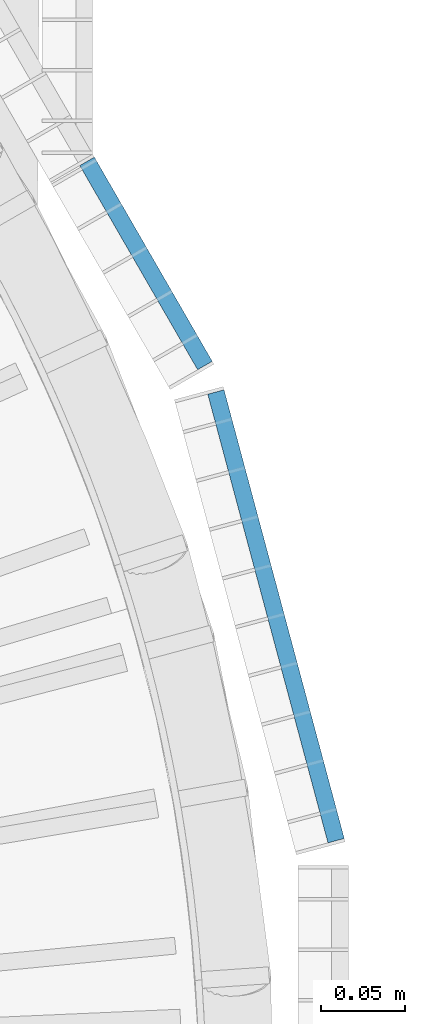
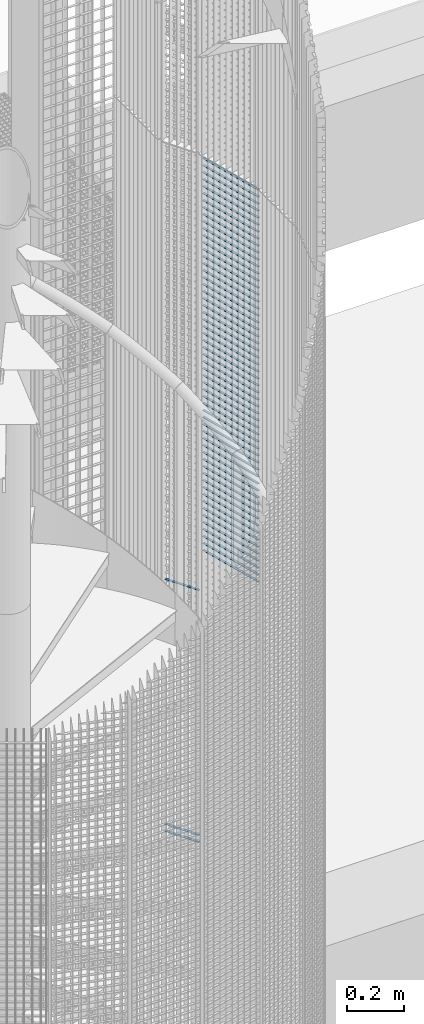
# One storey, part 270 of 1148: 60 beams, 2 elements without a shape of their own.
"""IFC2X3 building model written with IfcOpenShell, lengths in millimetres."""

from ifc_helpers import new_model, si_unit, frame, origin_with_axes, origin_2d_with_axis, place, context, subcontext, project, spatial, rectangle, extrude, material, type_object, element, aggregate, save


model = new_model("IFC2X3")

# Units and contexts
model_context = context("Model", 3, precision=1e-05, world=origin_with_axes())
body_context = subcontext(model_context, "Body", "Model", "MODEL_VIEW")
ifc_project = project(units=[si_unit("LENGTHUNIT", "METRE", prefix="MILLI"), si_unit("AREAUNIT", "SQUARE_METRE"), si_unit("VOLUMEUNIT", "CUBIC_METRE"), si_unit("MASSUNIT", "GRAM", prefix="KILO"), si_unit("TIMEUNIT", "SECOND"), si_unit("PLANEANGLEUNIT", "RADIAN"), si_unit("SOLIDANGLEUNIT", "STERADIAN"), si_unit("THERMODYNAMICTEMPERATUREUNIT", "DEGREE_CELSIUS"), si_unit("LUMINOUSINTENSITYUNIT", "LUMEN")], contexts=[model_context])

# Site, building, storey
site_placement = place(None, origin_with_axes())
site = spatial("IfcSite", under=ifc_project, at=site_placement, Name="Undefined", CompositionType="ELEMENT")
building_placement = place(site_placement, origin_with_axes())
building = spatial("IfcBuilding", under=site, at=building_placement, Name="Undefined", CompositionType="ELEMENT")
storey_placement = place(building_placement, origin_with_axes())
storey = spatial("IfcBuildingStorey", under=building, at=storey_placement, Name="Undefined", CompositionType="ELEMENT", Elevation=0.0)

# Assembly, beams
assembly_1_placement = place(storey_placement, origin_with_axes())
assembly_1 = element("IfcElementAssembly", 1, at=assembly_1_placement, inside=storey, Name="BORDURE", AssemblyPlace="NOTDEFINED", PredefinedType="NOTDEFINED")
ifc_material = material(Name="STEEL/S235JR")
beam_type = type_object("IfcBeamType", Name="PL2*10", PredefinedType="NOTDEFINED")
beam_1_placement = place(assembly_1_placement, frame((1033.2999428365, 437.231999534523, 12060.0), z_axis=(0.866030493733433, 0.499991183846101, 0.0), x_axis=(-0.499991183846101, 0.866030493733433, 0.0)))
beam_1 = element("IfcBeam", 2, at=beam_1_placement, type_object=beam_type, material=ifc_material, Name="ENTRETOISE", context=body_context, shape_type="SweptSolid", body=[
    extrude(rectangle(XDim=2.0, YDim=10.0, at=origin_2d_with_axis()), frame((140.102470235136, 0.0, 0.0), z_axis=(-1.0, 0.0, 0.0), x_axis=(0.0, -1.0, 0.0)), (0.0, 0.0, 1.0), 140.1),
])
beam_2_placement = place(assembly_1_placement, frame((1033.29994283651, 437.23199953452, 13110.0), z_axis=(0.866030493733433, 0.499991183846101, 0.0), x_axis=(-0.499991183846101, 0.866030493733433, 0.0)))
beam_2 = element("IfcBeam", 3, at=beam_2_placement, type_object=beam_type, material=ifc_material, Name="ENTRETOISE", context=body_context, shape_type="SweptSolid", body=[
    extrude(rectangle(XDim=2.0, YDim=10.0, at=origin_2d_with_axis()), frame((140.102470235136, 0.0, 0.0), z_axis=(-1.0, 0.0, 0.0), x_axis=(0.0, -1.0, 0.0)), (0.0, 0.0, 1.0), 140.1),
])
beam_3_placement = place(assembly_1_placement, frame((1033.2999428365, 437.231999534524, 12030.0), z_axis=(0.866030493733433, 0.499991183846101, 0.0), x_axis=(-0.499991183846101, 0.866030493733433, 0.0)))
beam_3 = element("IfcBeam", 4, at=beam_3_placement, type_object=beam_type, material=ifc_material, Name="ENTRETOISE", context=body_context, shape_type="SweptSolid", body=[
    extrude(rectangle(XDim=2.0, YDim=10.0, at=origin_2d_with_axis()), frame((140.102470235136, 0.0, 0.0), z_axis=(-1.0, 0.0, 0.0), x_axis=(0.0, -1.0, 0.0)), (0.0, 0.0, 1.0), 140.1),
])
aggregate(assembly_1, [beam_1, beam_2, beam_3])

assembly_2_placement = place(storey_placement, origin_with_axes())
assembly_2 = element("IfcElementAssembly", 5, at=assembly_2_placement, inside=storey, Name="BORDURE", AssemblyPlace="NOTDEFINED", PredefinedType="NOTDEFINED")
beam_4_placement = place(assembly_2_placement, frame((1111.25508286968, 154.895926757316, 14970.0), z_axis=(0.965925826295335, 0.258819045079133, 0.0), x_axis=(-0.258819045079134, 0.965925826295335, 0.0)))
beam_4 = element("IfcBeam", 6, at=beam_4_placement, type_object=beam_type, material=ifc_material, Name="ENTRETOISE", context=body_context, shape_type="SweptSolid", body=[
    extrude(rectangle(XDim=2.0, YDim=10.0, at=origin_2d_with_axis()), frame((275.999999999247, 9.09494701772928e-13, 1.53210777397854e-14), z_axis=(-1.0, 0.0, 0.0), x_axis=(0.0, -1.0, 0.0)), (0.0, 0.0, 1.0), 276.0),
])
beam_5_placement = place(assembly_2_placement, frame((1111.25508286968, 154.895926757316, 14940.0), z_axis=(0.965925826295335, 0.258819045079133, 0.0), x_axis=(-0.258819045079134, 0.965925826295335, 0.0)))
beam_5 = element("IfcBeam", 7, at=beam_5_placement, type_object=beam_type, material=ifc_material, Name="ENTRETOISE", context=body_context, shape_type="SweptSolid", body=[
    extrude(rectangle(XDim=2.0, YDim=10.0, at=origin_2d_with_axis()), frame((275.999999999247, 9.09494701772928e-13, 1.53210777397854e-14), z_axis=(-1.0, 0.0, 0.0), x_axis=(0.0, -1.0, 0.0)), (0.0, 0.0, 1.0), 276.0),
])
beam_6_placement = place(assembly_2_placement, frame((1111.25508286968, 154.895926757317, 14910.0), z_axis=(0.965925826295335, 0.258819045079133, 0.0), x_axis=(-0.258819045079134, 0.965925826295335, 0.0)))
beam_6 = element("IfcBeam", 8, at=beam_6_placement, type_object=beam_type, material=ifc_material, Name="ENTRETOISE", context=body_context, shape_type="SweptSolid", body=[
    extrude(rectangle(XDim=2.0, YDim=10.0, at=origin_2d_with_axis()), frame((275.999999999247, 9.09494701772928e-13, 1.53210777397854e-14), z_axis=(-1.0, 0.0, 0.0), x_axis=(0.0, -1.0, 0.0)), (0.0, 0.0, 1.0), 276.0),
])
beam_7_placement = place(assembly_2_placement, frame((1111.25508286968, 154.895926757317, 14880.0), z_axis=(0.965925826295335, 0.258819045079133, 0.0), x_axis=(-0.258819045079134, 0.965925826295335, 0.0)))
beam_7 = element("IfcBeam", 9, at=beam_7_placement, type_object=beam_type, material=ifc_material, Name="ENTRETOISE", context=body_context, shape_type="SweptSolid", body=[
    extrude(rectangle(XDim=2.0, YDim=10.0, at=origin_2d_with_axis()), frame((275.999999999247, 9.09494701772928e-13, 1.53210777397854e-14), z_axis=(-1.0, 0.0, 0.0), x_axis=(0.0, -1.0, 0.0)), (0.0, 0.0, 1.0), 276.0),
])
beam_8_placement = place(assembly_2_placement, frame((1111.25508286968, 154.895926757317, 14850.0), z_axis=(0.965925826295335, 0.258819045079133, 0.0), x_axis=(-0.258819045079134, 0.965925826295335, 0.0)))
beam_8 = element("IfcBeam", 10, at=beam_8_placement, type_object=beam_type, material=ifc_material, Name="ENTRETOISE", context=body_context, shape_type="SweptSolid", body=[
    extrude(rectangle(XDim=2.0, YDim=10.0, at=origin_2d_with_axis()), frame((275.999999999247, 9.09494701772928e-13, 1.53210777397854e-14), z_axis=(-1.0, 0.0, 0.0), x_axis=(0.0, -1.0, 0.0)), (0.0, 0.0, 1.0), 276.0),
])
beam_9_placement = place(assembly_2_placement, frame((1111.25508286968, 154.895926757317, 14820.0), z_axis=(0.965925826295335, 0.258819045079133, 0.0), x_axis=(-0.258819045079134, 0.965925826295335, 0.0)))
beam_9 = element("IfcBeam", 11, at=beam_9_placement, type_object=beam_type, material=ifc_material, Name="ENTRETOISE", context=body_context, shape_type="SweptSolid", body=[
    extrude(rectangle(XDim=2.0, YDim=10.0, at=origin_2d_with_axis()), frame((275.999999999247, 9.09494701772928e-13, 1.53210777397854e-14), z_axis=(-1.0, 0.0, 0.0), x_axis=(0.0, -1.0, 0.0)), (0.0, 0.0, 1.0), 276.0),
])
beam_10_placement = place(assembly_2_placement, frame((1111.25508286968, 154.895926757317, 14790.0), z_axis=(0.965925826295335, 0.258819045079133, 0.0), x_axis=(-0.258819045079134, 0.965925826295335, 0.0)))
beam_10 = element("IfcBeam", 12, at=beam_10_placement, type_object=beam_type, material=ifc_material, Name="ENTRETOISE", context=body_context, shape_type="SweptSolid", body=[
    extrude(rectangle(XDim=2.0, YDim=10.0, at=origin_2d_with_axis()), frame((275.999999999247, 9.09494701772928e-13, 1.53210777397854e-14), z_axis=(-1.0, 0.0, 0.0), x_axis=(0.0, -1.0, 0.0)), (0.0, 0.0, 1.0), 276.0),
])
beam_11_placement = place(assembly_2_placement, frame((1111.25508286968, 154.895926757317, 14760.0), z_axis=(0.965925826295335, 0.258819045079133, 0.0), x_axis=(-0.258819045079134, 0.965925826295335, 0.0)))
beam_11 = element("IfcBeam", 13, at=beam_11_placement, type_object=beam_type, material=ifc_material, Name="ENTRETOISE", context=body_context, shape_type="SweptSolid", body=[
    extrude(rectangle(XDim=2.0, YDim=10.0, at=origin_2d_with_axis()), frame((275.999999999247, 9.09494701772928e-13, 1.53210777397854e-14), z_axis=(-1.0, 0.0, 0.0), x_axis=(0.0, -1.0, 0.0)), (0.0, 0.0, 1.0), 276.0),
])
beam_12_placement = place(assembly_2_placement, frame((1111.25508286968, 154.895926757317, 14730.0), z_axis=(0.965925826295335, 0.258819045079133, 0.0), x_axis=(-0.258819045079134, 0.965925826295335, 0.0)))
beam_12 = element("IfcBeam", 14, at=beam_12_placement, type_object=beam_type, material=ifc_material, Name="ENTRETOISE", context=body_context, shape_type="SweptSolid", body=[
    extrude(rectangle(XDim=2.0, YDim=10.0, at=origin_2d_with_axis()), frame((275.999999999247, 9.09494701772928e-13, 1.53210777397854e-14), z_axis=(-1.0, 0.0, 0.0), x_axis=(0.0, -1.0, 0.0)), (0.0, 0.0, 1.0), 276.0),
])
beam_13_placement = place(assembly_2_placement, frame((1111.25508286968, 154.895926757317, 14700.0), z_axis=(0.965925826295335, 0.258819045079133, 0.0), x_axis=(-0.258819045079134, 0.965925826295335, 0.0)))
beam_13 = element("IfcBeam", 15, at=beam_13_placement, type_object=beam_type, material=ifc_material, Name="ENTRETOISE", context=body_context, shape_type="SweptSolid", body=[
    extrude(rectangle(XDim=2.0, YDim=10.0, at=origin_2d_with_axis()), frame((275.999999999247, 9.09494701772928e-13, 1.53210777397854e-14), z_axis=(-1.0, 0.0, 0.0), x_axis=(0.0, -1.0, 0.0)), (0.0, 0.0, 1.0), 276.0),
])
beam_14_placement = place(assembly_2_placement, frame((1111.25508286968, 154.895926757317, 14670.0), z_axis=(0.965925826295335, 0.258819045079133, 0.0), x_axis=(-0.258819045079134, 0.965925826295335, 0.0)))
beam_14 = element("IfcBeam", 16, at=beam_14_placement, type_object=beam_type, material=ifc_material, Name="ENTRETOISE", context=body_context, shape_type="SweptSolid", body=[
    extrude(rectangle(XDim=2.0, YDim=10.0, at=origin_2d_with_axis()), frame((275.999999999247, 9.09494701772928e-13, 1.53210777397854e-14), z_axis=(-1.0, 0.0, 0.0), x_axis=(0.0, -1.0, 0.0)), (0.0, 0.0, 1.0), 276.0),
])
beam_15_placement = place(assembly_2_placement, frame((1111.25508286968, 154.895926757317, 14640.0), z_axis=(0.965925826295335, 0.258819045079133, 0.0), x_axis=(-0.258819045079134, 0.965925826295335, 0.0)))
beam_15 = element("IfcBeam", 17, at=beam_15_placement, type_object=beam_type, material=ifc_material, Name="ENTRETOISE", context=body_context, shape_type="SweptSolid", body=[
    extrude(rectangle(XDim=2.0, YDim=10.0, at=origin_2d_with_axis()), frame((275.999999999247, 9.09494701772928e-13, 1.53210777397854e-14), z_axis=(-1.0, 0.0, 0.0), x_axis=(0.0, -1.0, 0.0)), (0.0, 0.0, 1.0), 276.0),
])
beam_16_placement = place(assembly_2_placement, frame((1111.25508286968, 154.895926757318, 14610.0), z_axis=(0.965925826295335, 0.258819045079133, 0.0), x_axis=(-0.258819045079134, 0.965925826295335, 0.0)))
beam_16 = element("IfcBeam", 18, at=beam_16_placement, type_object=beam_type, material=ifc_material, Name="ENTRETOISE", context=body_context, shape_type="SweptSolid", body=[
    extrude(rectangle(XDim=2.0, YDim=10.0, at=origin_2d_with_axis()), frame((275.999999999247, 9.09494701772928e-13, 1.53210777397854e-14), z_axis=(-1.0, 0.0, 0.0), x_axis=(0.0, -1.0, 0.0)), (0.0, 0.0, 1.0), 276.0),
])
beam_17_placement = place(assembly_2_placement, frame((1111.25508286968, 154.895926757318, 14580.0), z_axis=(0.965925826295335, 0.258819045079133, 0.0), x_axis=(-0.258819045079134, 0.965925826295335, 0.0)))
beam_17 = element("IfcBeam", 19, at=beam_17_placement, type_object=beam_type, material=ifc_material, Name="ENTRETOISE", context=body_context, shape_type="SweptSolid", body=[
    extrude(rectangle(XDim=2.0, YDim=10.0, at=origin_2d_with_axis()), frame((275.999999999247, 9.09494701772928e-13, 1.53210777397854e-14), z_axis=(-1.0, 0.0, 0.0), x_axis=(0.0, -1.0, 0.0)), (0.0, 0.0, 1.0), 276.0),
])
beam_18_placement = place(assembly_2_placement, frame((1111.25508286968, 154.895926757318, 14550.0), z_axis=(0.965925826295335, 0.258819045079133, 0.0), x_axis=(-0.258819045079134, 0.965925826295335, 0.0)))
beam_18 = element("IfcBeam", 20, at=beam_18_placement, type_object=beam_type, material=ifc_material, Name="ENTRETOISE", context=body_context, shape_type="SweptSolid", body=[
    extrude(rectangle(XDim=2.0, YDim=10.0, at=origin_2d_with_axis()), frame((275.999999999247, 9.09494701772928e-13, 1.53210777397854e-14), z_axis=(-1.0, 0.0, 0.0), x_axis=(0.0, -1.0, 0.0)), (0.0, 0.0, 1.0), 276.0),
])
beam_19_placement = place(assembly_2_placement, frame((1111.25508286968, 154.895926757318, 14520.0), z_axis=(0.965925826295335, 0.258819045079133, 0.0), x_axis=(-0.258819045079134, 0.965925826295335, 0.0)))
beam_19 = element("IfcBeam", 21, at=beam_19_placement, type_object=beam_type, material=ifc_material, Name="ENTRETOISE", context=body_context, shape_type="SweptSolid", body=[
    extrude(rectangle(XDim=2.0, YDim=10.0, at=origin_2d_with_axis()), frame((275.999999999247, 9.09494701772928e-13, 1.53210777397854e-14), z_axis=(-1.0, 0.0, 0.0), x_axis=(0.0, -1.0, 0.0)), (0.0, 0.0, 1.0), 276.0),
])
beam_20_placement = place(assembly_2_placement, frame((1111.25508286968, 154.895926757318, 14490.0), z_axis=(0.965925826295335, 0.258819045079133, 0.0), x_axis=(-0.258819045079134, 0.965925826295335, 0.0)))
beam_20 = element("IfcBeam", 22, at=beam_20_placement, type_object=beam_type, material=ifc_material, Name="ENTRETOISE", context=body_context, shape_type="SweptSolid", body=[
    extrude(rectangle(XDim=2.0, YDim=10.0, at=origin_2d_with_axis()), frame((275.999999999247, 9.09494701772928e-13, 1.53210777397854e-14), z_axis=(-1.0, 0.0, 0.0), x_axis=(0.0, -1.0, 0.0)), (0.0, 0.0, 1.0), 276.0),
])
beam_21_placement = place(assembly_2_placement, frame((1111.25508286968, 154.895926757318, 14460.0), z_axis=(0.965925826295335, 0.258819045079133, 0.0), x_axis=(-0.258819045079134, 0.965925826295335, 0.0)))
beam_21 = element("IfcBeam", 23, at=beam_21_placement, type_object=beam_type, material=ifc_material, Name="ENTRETOISE", context=body_context, shape_type="SweptSolid", body=[
    extrude(rectangle(XDim=2.0, YDim=10.0, at=origin_2d_with_axis()), frame((275.999999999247, 9.09494701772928e-13, 1.53210777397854e-14), z_axis=(-1.0, 0.0, 0.0), x_axis=(0.0, -1.0, 0.0)), (0.0, 0.0, 1.0), 276.0),
])
beam_22_placement = place(assembly_2_placement, frame((1111.25508286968, 154.895926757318, 14430.0), z_axis=(0.965925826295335, 0.258819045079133, 0.0), x_axis=(-0.258819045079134, 0.965925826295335, 0.0)))
beam_22 = element("IfcBeam", 24, at=beam_22_placement, type_object=beam_type, material=ifc_material, Name="ENTRETOISE", context=body_context, shape_type="SweptSolid", body=[
    extrude(rectangle(XDim=2.0, YDim=10.0, at=origin_2d_with_axis()), frame((275.999999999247, 9.09494701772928e-13, 1.53210777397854e-14), z_axis=(-1.0, 0.0, 0.0), x_axis=(0.0, -1.0, 0.0)), (0.0, 0.0, 1.0), 276.0),
])
beam_23_placement = place(assembly_2_placement, frame((1111.25508286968, 154.895926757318, 14400.0), z_axis=(0.965925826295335, 0.258819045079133, 0.0), x_axis=(-0.258819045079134, 0.965925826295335, 0.0)))
beam_23 = element("IfcBeam", 25, at=beam_23_placement, type_object=beam_type, material=ifc_material, Name="ENTRETOISE", context=body_context, shape_type="SweptSolid", body=[
    extrude(rectangle(XDim=2.0, YDim=10.0, at=origin_2d_with_axis()), frame((275.999999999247, 9.09494701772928e-13, 1.53210777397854e-14), z_axis=(-1.0, 0.0, 0.0), x_axis=(0.0, -1.0, 0.0)), (0.0, 0.0, 1.0), 276.0),
])
beam_24_placement = place(assembly_2_placement, frame((1111.25508286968, 154.895926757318, 14370.0), z_axis=(0.965925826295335, 0.258819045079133, 0.0), x_axis=(-0.258819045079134, 0.965925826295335, 0.0)))
beam_24 = element("IfcBeam", 26, at=beam_24_placement, type_object=beam_type, material=ifc_material, Name="ENTRETOISE", context=body_context, shape_type="SweptSolid", body=[
    extrude(rectangle(XDim=2.0, YDim=10.0, at=origin_2d_with_axis()), frame((275.999999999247, 9.09494701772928e-13, 1.53210777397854e-14), z_axis=(-1.0, 0.0, 0.0), x_axis=(0.0, -1.0, 0.0)), (0.0, 0.0, 1.0), 276.0),
])
beam_25_placement = place(assembly_2_placement, frame((1111.25508286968, 154.895926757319, 14340.0), z_axis=(0.965925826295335, 0.258819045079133, 0.0), x_axis=(-0.258819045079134, 0.965925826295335, 0.0)))
beam_25 = element("IfcBeam", 27, at=beam_25_placement, type_object=beam_type, material=ifc_material, Name="ENTRETOISE", context=body_context, shape_type="SweptSolid", body=[
    extrude(rectangle(XDim=2.0, YDim=10.0, at=origin_2d_with_axis()), frame((275.999999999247, 9.09494701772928e-13, 1.53210777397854e-14), z_axis=(-1.0, 0.0, 0.0), x_axis=(0.0, -1.0, 0.0)), (0.0, 0.0, 1.0), 276.0),
])
beam_26_placement = place(assembly_2_placement, frame((1111.25508286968, 154.895926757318, 14310.0), z_axis=(0.965925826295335, 0.258819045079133, 0.0), x_axis=(-0.258819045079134, 0.965925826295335, 0.0)))
beam_26 = element("IfcBeam", 28, at=beam_26_placement, type_object=beam_type, material=ifc_material, Name="ENTRETOISE", context=body_context, shape_type="SweptSolid", body=[
    extrude(rectangle(XDim=2.0, YDim=10.0, at=origin_2d_with_axis()), frame((275.999999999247, 9.09494701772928e-13, 1.53210777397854e-14), z_axis=(-1.0, 0.0, 0.0), x_axis=(0.0, -1.0, 0.0)), (0.0, 0.0, 1.0), 276.0),
])
beam_27_placement = place(assembly_2_placement, frame((1111.25508286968, 154.895926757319, 14280.0), z_axis=(0.965925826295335, 0.258819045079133, 0.0), x_axis=(-0.258819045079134, 0.965925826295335, 0.0)))
beam_27 = element("IfcBeam", 29, at=beam_27_placement, type_object=beam_type, material=ifc_material, Name="ENTRETOISE", context=body_context, shape_type="SweptSolid", body=[
    extrude(rectangle(XDim=2.0, YDim=10.0, at=origin_2d_with_axis()), frame((275.999999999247, 9.09494701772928e-13, 1.53210777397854e-14), z_axis=(-1.0, 0.0, 0.0), x_axis=(0.0, -1.0, 0.0)), (0.0, 0.0, 1.0), 276.0),
])
beam_28_placement = place(assembly_2_placement, frame((1111.25508286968, 154.895926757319, 14250.0), z_axis=(0.965925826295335, 0.258819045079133, 0.0), x_axis=(-0.258819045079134, 0.965925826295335, 0.0)))
beam_28 = element("IfcBeam", 30, at=beam_28_placement, type_object=beam_type, material=ifc_material, Name="ENTRETOISE", context=body_context, shape_type="SweptSolid", body=[
    extrude(rectangle(XDim=2.0, YDim=10.0, at=origin_2d_with_axis()), frame((275.999999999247, 9.09494701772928e-13, 1.53210777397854e-14), z_axis=(-1.0, 0.0, 0.0), x_axis=(0.0, -1.0, 0.0)), (0.0, 0.0, 1.0), 276.0),
])
beam_29_placement = place(assembly_2_placement, frame((1111.25508286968, 154.895926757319, 14220.0), z_axis=(0.965925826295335, 0.258819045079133, 0.0), x_axis=(-0.258819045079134, 0.965925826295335, 0.0)))
beam_29 = element("IfcBeam", 31, at=beam_29_placement, type_object=beam_type, material=ifc_material, Name="ENTRETOISE", context=body_context, shape_type="SweptSolid", body=[
    extrude(rectangle(XDim=2.0, YDim=10.0, at=origin_2d_with_axis()), frame((275.999999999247, 9.09494701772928e-13, 1.53210777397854e-14), z_axis=(-1.0, 0.0, 0.0), x_axis=(0.0, -1.0, 0.0)), (0.0, 0.0, 1.0), 276.0),
])
beam_30_placement = place(assembly_2_placement, frame((1111.25508286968, 154.895926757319, 14190.0), z_axis=(0.965925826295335, 0.258819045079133, 0.0), x_axis=(-0.258819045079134, 0.965925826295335, 0.0)))
beam_30 = element("IfcBeam", 32, at=beam_30_placement, type_object=beam_type, material=ifc_material, Name="ENTRETOISE", context=body_context, shape_type="SweptSolid", body=[
    extrude(rectangle(XDim=2.0, YDim=10.0, at=origin_2d_with_axis()), frame((275.999999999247, 9.09494701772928e-13, 1.53210777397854e-14), z_axis=(-1.0, 0.0, 0.0), x_axis=(0.0, -1.0, 0.0)), (0.0, 0.0, 1.0), 276.0),
])
beam_31_placement = place(assembly_2_placement, frame((1111.25508286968, 154.895926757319, 14160.0), z_axis=(0.965925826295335, 0.258819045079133, 0.0), x_axis=(-0.258819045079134, 0.965925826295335, 0.0)))
beam_31 = element("IfcBeam", 33, at=beam_31_placement, type_object=beam_type, material=ifc_material, Name="ENTRETOISE", context=body_context, shape_type="SweptSolid", body=[
    extrude(rectangle(XDim=2.0, YDim=10.0, at=origin_2d_with_axis()), frame((275.999999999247, 9.09494701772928e-13, 1.53210777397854e-14), z_axis=(-1.0, 0.0, 0.0), x_axis=(0.0, -1.0, 0.0)), (0.0, 0.0, 1.0), 276.0),
])
beam_32_placement = place(assembly_2_placement, frame((1111.25508286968, 154.895926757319, 14130.0), z_axis=(0.965925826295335, 0.258819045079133, 0.0), x_axis=(-0.258819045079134, 0.965925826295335, 0.0)))
beam_32 = element("IfcBeam", 34, at=beam_32_placement, type_object=beam_type, material=ifc_material, Name="ENTRETOISE", context=body_context, shape_type="SweptSolid", body=[
    extrude(rectangle(XDim=2.0, YDim=10.0, at=origin_2d_with_axis()), frame((275.999999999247, 9.09494701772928e-13, 1.53210777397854e-14), z_axis=(-1.0, 0.0, 0.0), x_axis=(0.0, -1.0, 0.0)), (0.0, 0.0, 1.0), 276.0),
])
beam_33_placement = place(assembly_2_placement, frame((1111.25508286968, 154.895926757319, 14100.0), z_axis=(0.965925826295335, 0.258819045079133, 0.0), x_axis=(-0.258819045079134, 0.965925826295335, 0.0)))
beam_33 = element("IfcBeam", 35, at=beam_33_placement, type_object=beam_type, material=ifc_material, Name="ENTRETOISE", context=body_context, shape_type="SweptSolid", body=[
    extrude(rectangle(XDim=2.0, YDim=10.0, at=origin_2d_with_axis()), frame((275.999999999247, 9.09494701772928e-13, 1.53210777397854e-14), z_axis=(-1.0, 0.0, 0.0), x_axis=(0.0, -1.0, 0.0)), (0.0, 0.0, 1.0), 276.0),
])
beam_34_placement = place(assembly_2_placement, frame((1111.25508286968, 154.895926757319, 14070.0), z_axis=(0.965925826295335, 0.258819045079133, 0.0), x_axis=(-0.258819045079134, 0.965925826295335, 0.0)))
beam_34 = element("IfcBeam", 36, at=beam_34_placement, type_object=beam_type, material=ifc_material, Name="ENTRETOISE", context=body_context, shape_type="SweptSolid", body=[
    extrude(rectangle(XDim=2.0, YDim=10.0, at=origin_2d_with_axis()), frame((275.999999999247, 9.09494701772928e-13, 1.53210777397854e-14), z_axis=(-1.0, 0.0, 0.0), x_axis=(0.0, -1.0, 0.0)), (0.0, 0.0, 1.0), 276.0),
])
beam_35_placement = place(assembly_2_placement, frame((1111.25508286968, 154.89592675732, 14040.0), z_axis=(0.965925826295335, 0.258819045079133, 0.0), x_axis=(-0.258819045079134, 0.965925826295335, 0.0)))
beam_35 = element("IfcBeam", 37, at=beam_35_placement, type_object=beam_type, material=ifc_material, Name="ENTRETOISE", context=body_context, shape_type="SweptSolid", body=[
    extrude(rectangle(XDim=2.0, YDim=10.0, at=origin_2d_with_axis()), frame((275.999999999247, 9.09494701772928e-13, 1.53210777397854e-14), z_axis=(-1.0, 0.0, 0.0), x_axis=(0.0, -1.0, 0.0)), (0.0, 0.0, 1.0), 276.0),
])
beam_36_placement = place(assembly_2_placement, frame((1111.25508286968, 154.89592675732, 14010.0), z_axis=(0.965925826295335, 0.258819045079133, 0.0), x_axis=(-0.258819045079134, 0.965925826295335, 0.0)))
beam_36 = element("IfcBeam", 38, at=beam_36_placement, type_object=beam_type, material=ifc_material, Name="ENTRETOISE", context=body_context, shape_type="SweptSolid", body=[
    extrude(rectangle(XDim=2.0, YDim=10.0, at=origin_2d_with_axis()), frame((275.999999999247, 9.09494701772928e-13, 1.53210777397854e-14), z_axis=(-1.0, 0.0, 0.0), x_axis=(0.0, -1.0, 0.0)), (0.0, 0.0, 1.0), 276.0),
])
beam_37_placement = place(assembly_2_placement, frame((1111.25508286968, 154.89592675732, 13980.0), z_axis=(0.965925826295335, 0.258819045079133, 0.0), x_axis=(-0.258819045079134, 0.965925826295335, 0.0)))
beam_37 = element("IfcBeam", 39, at=beam_37_placement, type_object=beam_type, material=ifc_material, Name="ENTRETOISE", context=body_context, shape_type="SweptSolid", body=[
    extrude(rectangle(XDim=2.0, YDim=10.0, at=origin_2d_with_axis()), frame((275.999999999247, 9.09494701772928e-13, 1.53210777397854e-14), z_axis=(-1.0, 0.0, 0.0), x_axis=(0.0, -1.0, 0.0)), (0.0, 0.0, 1.0), 276.0),
])
beam_38_placement = place(assembly_2_placement, frame((1111.25508286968, 154.89592675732, 13950.0), z_axis=(0.965925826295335, 0.258819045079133, 0.0), x_axis=(-0.258819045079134, 0.965925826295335, 0.0)))
beam_38 = element("IfcBeam", 40, at=beam_38_placement, type_object=beam_type, material=ifc_material, Name="ENTRETOISE", context=body_context, shape_type="SweptSolid", body=[
    extrude(rectangle(XDim=2.0, YDim=10.0, at=origin_2d_with_axis()), frame((275.999999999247, 9.09494701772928e-13, 1.53210777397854e-14), z_axis=(-1.0, 0.0, 0.0), x_axis=(0.0, -1.0, 0.0)), (0.0, 0.0, 1.0), 276.0),
])
beam_39_placement = place(assembly_2_placement, frame((1111.25508286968, 154.89592675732, 13920.0), z_axis=(0.965925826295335, 0.258819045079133, 0.0), x_axis=(-0.258819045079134, 0.965925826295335, 0.0)))
beam_39 = element("IfcBeam", 41, at=beam_39_placement, type_object=beam_type, material=ifc_material, Name="ENTRETOISE", context=body_context, shape_type="SweptSolid", body=[
    extrude(rectangle(XDim=2.0, YDim=10.0, at=origin_2d_with_axis()), frame((275.999999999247, 9.09494701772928e-13, 1.53210777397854e-14), z_axis=(-1.0, 0.0, 0.0), x_axis=(0.0, -1.0, 0.0)), (0.0, 0.0, 1.0), 276.0),
])
beam_40_placement = place(assembly_2_placement, frame((1111.25508286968, 154.89592675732, 13890.0), z_axis=(0.965925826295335, 0.258819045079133, 0.0), x_axis=(-0.258819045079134, 0.965925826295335, 0.0)))
beam_40 = element("IfcBeam", 42, at=beam_40_placement, type_object=beam_type, material=ifc_material, Name="ENTRETOISE", context=body_context, shape_type="SweptSolid", body=[
    extrude(rectangle(XDim=2.0, YDim=10.0, at=origin_2d_with_axis()), frame((275.999999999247, 9.09494701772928e-13, 1.53210777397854e-14), z_axis=(-1.0, 0.0, 0.0), x_axis=(0.0, -1.0, 0.0)), (0.0, 0.0, 1.0), 276.0),
])
beam_41_placement = place(assembly_2_placement, frame((1111.25508286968, 154.89592675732, 13860.0), z_axis=(0.965925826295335, 0.258819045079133, 0.0), x_axis=(-0.258819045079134, 0.965925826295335, 0.0)))
beam_41 = element("IfcBeam", 43, at=beam_41_placement, type_object=beam_type, material=ifc_material, Name="ENTRETOISE", context=body_context, shape_type="SweptSolid", body=[
    extrude(rectangle(XDim=2.0, YDim=10.0, at=origin_2d_with_axis()), frame((275.999999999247, 9.09494701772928e-13, 1.53210777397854e-14), z_axis=(-1.0, 0.0, 0.0), x_axis=(0.0, -1.0, 0.0)), (0.0, 0.0, 1.0), 276.0),
])
beam_42_placement = place(assembly_2_placement, frame((1111.25508286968, 154.89592675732, 13830.0), z_axis=(0.965925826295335, 0.258819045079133, 0.0), x_axis=(-0.258819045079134, 0.965925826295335, 0.0)))
beam_42 = element("IfcBeam", 44, at=beam_42_placement, type_object=beam_type, material=ifc_material, Name="ENTRETOISE", context=body_context, shape_type="SweptSolid", body=[
    extrude(rectangle(XDim=2.0, YDim=10.0, at=origin_2d_with_axis()), frame((275.999999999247, 9.09494701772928e-13, 1.53210777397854e-14), z_axis=(-1.0, 0.0, 0.0), x_axis=(0.0, -1.0, 0.0)), (0.0, 0.0, 1.0), 276.0),
])
beam_43_placement = place(assembly_2_placement, frame((1111.25508286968, 154.89592675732, 13800.0), z_axis=(0.965925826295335, 0.258819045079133, 0.0), x_axis=(-0.258819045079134, 0.965925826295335, 0.0)))
beam_43 = element("IfcBeam", 45, at=beam_43_placement, type_object=beam_type, material=ifc_material, Name="ENTRETOISE", context=body_context, shape_type="SweptSolid", body=[
    extrude(rectangle(XDim=2.0, YDim=10.0, at=origin_2d_with_axis()), frame((275.999999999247, 9.09494701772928e-13, 1.53210777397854e-14), z_axis=(-1.0, 0.0, 0.0), x_axis=(0.0, -1.0, 0.0)), (0.0, 0.0, 1.0), 276.0),
])
beam_44_placement = place(assembly_2_placement, frame((1111.25508286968, 154.89592675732, 13770.0), z_axis=(0.965925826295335, 0.258819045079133, 0.0), x_axis=(-0.258819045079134, 0.965925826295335, 0.0)))
beam_44 = element("IfcBeam", 46, at=beam_44_placement, type_object=beam_type, material=ifc_material, Name="ENTRETOISE", context=body_context, shape_type="SweptSolid", body=[
    extrude(rectangle(XDim=2.0, YDim=10.0, at=origin_2d_with_axis()), frame((275.999999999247, 9.09494701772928e-13, 1.53210777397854e-14), z_axis=(-1.0, 0.0, 0.0), x_axis=(0.0, -1.0, 0.0)), (0.0, 0.0, 1.0), 276.0),
])
beam_45_placement = place(assembly_2_placement, frame((1111.25508286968, 154.89592675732, 13740.0), z_axis=(0.965925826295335, 0.258819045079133, 0.0), x_axis=(-0.258819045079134, 0.965925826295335, 0.0)))
beam_45 = element("IfcBeam", 47, at=beam_45_placement, type_object=beam_type, material=ifc_material, Name="ENTRETOISE", context=body_context, shape_type="SweptSolid", body=[
    extrude(rectangle(XDim=2.0, YDim=10.0, at=origin_2d_with_axis()), frame((275.999999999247, 9.09494701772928e-13, 1.53210777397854e-14), z_axis=(-1.0, 0.0, 0.0), x_axis=(0.0, -1.0, 0.0)), (0.0, 0.0, 1.0), 276.0),
])
beam_46_placement = place(assembly_2_placement, frame((1111.25508286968, 154.895926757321, 13710.0), z_axis=(0.965925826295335, 0.258819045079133, 0.0), x_axis=(-0.258819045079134, 0.965925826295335, 0.0)))
beam_46 = element("IfcBeam", 48, at=beam_46_placement, type_object=beam_type, material=ifc_material, Name="ENTRETOISE", context=body_context, shape_type="SweptSolid", body=[
    extrude(rectangle(XDim=2.0, YDim=10.0, at=origin_2d_with_axis()), frame((275.999999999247, 9.09494701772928e-13, 1.53210777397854e-14), z_axis=(-1.0, 0.0, 0.0), x_axis=(0.0, -1.0, 0.0)), (0.0, 0.0, 1.0), 276.0),
])
beam_47_placement = place(assembly_2_placement, frame((1111.25508286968, 154.895926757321, 13680.0), z_axis=(0.965925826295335, 0.258819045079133, 0.0), x_axis=(-0.258819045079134, 0.965925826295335, 0.0)))
beam_47 = element("IfcBeam", 49, at=beam_47_placement, type_object=beam_type, material=ifc_material, Name="ENTRETOISE", context=body_context, shape_type="SweptSolid", body=[
    extrude(rectangle(XDim=2.0, YDim=10.0, at=origin_2d_with_axis()), frame((275.999999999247, 9.09494701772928e-13, 1.53210777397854e-14), z_axis=(-1.0, 0.0, 0.0), x_axis=(0.0, -1.0, 0.0)), (0.0, 0.0, 1.0), 276.0),
])
beam_48_placement = place(assembly_2_placement, frame((1111.25508286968, 154.895926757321, 13650.0), z_axis=(0.965925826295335, 0.258819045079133, 0.0), x_axis=(-0.258819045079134, 0.965925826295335, 0.0)))
beam_48 = element("IfcBeam", 50, at=beam_48_placement, type_object=beam_type, material=ifc_material, Name="ENTRETOISE", context=body_context, shape_type="SweptSolid", body=[
    extrude(rectangle(XDim=2.0, YDim=10.0, at=origin_2d_with_axis()), frame((275.999999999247, 9.09494701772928e-13, 1.53210777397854e-14), z_axis=(-1.0, 0.0, 0.0), x_axis=(0.0, -1.0, 0.0)), (0.0, 0.0, 1.0), 276.0),
])
beam_49_placement = place(assembly_2_placement, frame((1111.25508286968, 154.895926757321, 13620.0), z_axis=(0.965925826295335, 0.258819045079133, 0.0), x_axis=(-0.258819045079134, 0.965925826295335, 0.0)))
beam_49 = element("IfcBeam", 51, at=beam_49_placement, type_object=beam_type, material=ifc_material, Name="ENTRETOISE", context=body_context, shape_type="SweptSolid", body=[
    extrude(rectangle(XDim=2.0, YDim=10.0, at=origin_2d_with_axis()), frame((275.999999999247, 9.09494701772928e-13, 1.53210777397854e-14), z_axis=(-1.0, 0.0, 0.0), x_axis=(0.0, -1.0, 0.0)), (0.0, 0.0, 1.0), 276.0),
])
beam_50_placement = place(assembly_2_placement, frame((1111.25508286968, 154.895926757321, 13590.0), z_axis=(0.965925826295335, 0.258819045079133, 0.0), x_axis=(-0.258819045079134, 0.965925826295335, 0.0)))
beam_50 = element("IfcBeam", 52, at=beam_50_placement, type_object=beam_type, material=ifc_material, Name="ENTRETOISE", context=body_context, shape_type="SweptSolid", body=[
    extrude(rectangle(XDim=2.0, YDim=10.0, at=origin_2d_with_axis()), frame((275.999999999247, 9.09494701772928e-13, 1.53210777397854e-14), z_axis=(-1.0, 0.0, 0.0), x_axis=(0.0, -1.0, 0.0)), (0.0, 0.0, 1.0), 276.0),
])
beam_51_placement = place(assembly_2_placement, frame((1111.25508286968, 154.895926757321, 13560.0), z_axis=(0.965925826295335, 0.258819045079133, 0.0), x_axis=(-0.258819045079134, 0.965925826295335, 0.0)))
beam_51 = element("IfcBeam", 53, at=beam_51_placement, type_object=beam_type, material=ifc_material, Name="ENTRETOISE", context=body_context, shape_type="SweptSolid", body=[
    extrude(rectangle(XDim=2.0, YDim=10.0, at=origin_2d_with_axis()), frame((275.999999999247, 9.09494701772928e-13, 1.53210777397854e-14), z_axis=(-1.0, 0.0, 0.0), x_axis=(0.0, -1.0, 0.0)), (0.0, 0.0, 1.0), 276.0),
])
beam_52_placement = place(assembly_2_placement, frame((1111.25508286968, 154.895926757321, 13530.0), z_axis=(0.965925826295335, 0.258819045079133, 0.0), x_axis=(-0.258819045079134, 0.965925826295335, 0.0)))
beam_52 = element("IfcBeam", 54, at=beam_52_placement, type_object=beam_type, material=ifc_material, Name="ENTRETOISE", context=body_context, shape_type="SweptSolid", body=[
    extrude(rectangle(XDim=2.0, YDim=10.0, at=origin_2d_with_axis()), frame((275.999999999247, 9.09494701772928e-13, 1.53210777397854e-14), z_axis=(-1.0, 0.0, 0.0), x_axis=(0.0, -1.0, 0.0)), (0.0, 0.0, 1.0), 276.0),
])
beam_53_placement = place(assembly_2_placement, frame((1111.25508286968, 154.895926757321, 13500.0), z_axis=(0.965925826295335, 0.258819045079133, 0.0), x_axis=(-0.258819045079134, 0.965925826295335, 0.0)))
beam_53 = element("IfcBeam", 55, at=beam_53_placement, type_object=beam_type, material=ifc_material, Name="ENTRETOISE", context=body_context, shape_type="SweptSolid", body=[
    extrude(rectangle(XDim=2.0, YDim=10.0, at=origin_2d_with_axis()), frame((275.999999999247, 9.09494701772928e-13, 1.53210777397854e-14), z_axis=(-1.0, 0.0, 0.0), x_axis=(0.0, -1.0, 0.0)), (0.0, 0.0, 1.0), 276.0),
])
beam_54_placement = place(assembly_2_placement, frame((1111.25508286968, 154.895926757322, 13470.0), z_axis=(0.965925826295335, 0.258819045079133, 0.0), x_axis=(-0.258819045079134, 0.965925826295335, 0.0)))
beam_54 = element("IfcBeam", 56, at=beam_54_placement, type_object=beam_type, material=ifc_material, Name="ENTRETOISE", context=body_context, shape_type="SweptSolid", body=[
    extrude(rectangle(XDim=2.0, YDim=10.0, at=origin_2d_with_axis()), frame((275.999999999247, 9.09494701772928e-13, 1.53210777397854e-14), z_axis=(-1.0, 0.0, 0.0), x_axis=(0.0, -1.0, 0.0)), (0.0, 0.0, 1.0), 276.0),
])
beam_55_placement = place(assembly_2_placement, frame((1111.25508286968, 154.895926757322, 13440.0), z_axis=(0.965925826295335, 0.258819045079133, 0.0), x_axis=(-0.258819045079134, 0.965925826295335, 0.0)))
beam_55 = element("IfcBeam", 57, at=beam_55_placement, type_object=beam_type, material=ifc_material, Name="ENTRETOISE", context=body_context, shape_type="SweptSolid", body=[
    extrude(rectangle(XDim=2.0, YDim=10.0, at=origin_2d_with_axis()), frame((275.999999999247, 9.09494701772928e-13, 1.53210777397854e-14), z_axis=(-1.0, 0.0, 0.0), x_axis=(0.0, -1.0, 0.0)), (0.0, 0.0, 1.0), 276.0),
])
beam_56_placement = place(assembly_2_placement, frame((1111.25508286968, 154.895926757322, 13410.0), z_axis=(0.965925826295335, 0.258819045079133, 0.0), x_axis=(-0.258819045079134, 0.965925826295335, 0.0)))
beam_56 = element("IfcBeam", 58, at=beam_56_placement, type_object=beam_type, material=ifc_material, Name="ENTRETOISE", context=body_context, shape_type="SweptSolid", body=[
    extrude(rectangle(XDim=2.0, YDim=10.0, at=origin_2d_with_axis()), frame((275.999999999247, 9.09494701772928e-13, 1.53210777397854e-14), z_axis=(-1.0, 0.0, 0.0), x_axis=(0.0, -1.0, 0.0)), (0.0, 0.0, 1.0), 276.0),
])
beam_57_placement = place(assembly_2_placement, frame((1111.25508286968, 154.895926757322, 13380.0), z_axis=(0.965925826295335, 0.258819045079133, 0.0), x_axis=(-0.258819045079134, 0.965925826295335, 0.0)))
beam_57 = element("IfcBeam", 59, at=beam_57_placement, type_object=beam_type, material=ifc_material, Name="ENTRETOISE", context=body_context, shape_type="SweptSolid", body=[
    extrude(rectangle(XDim=2.0, YDim=10.0, at=origin_2d_with_axis()), frame((275.999999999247, 9.09494701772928e-13, 1.53210777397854e-14), z_axis=(-1.0, 0.0, 0.0), x_axis=(0.0, -1.0, 0.0)), (0.0, 0.0, 1.0), 276.0),
])
beam_58_placement = place(assembly_2_placement, frame((1111.25508286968, 154.895926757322, 13350.0), z_axis=(0.965925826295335, 0.258819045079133, 0.0), x_axis=(-0.258819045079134, 0.965925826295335, 0.0)))
beam_58 = element("IfcBeam", 60, at=beam_58_placement, type_object=beam_type, material=ifc_material, Name="ENTRETOISE", context=body_context, shape_type="SweptSolid", body=[
    extrude(rectangle(XDim=2.0, YDim=10.0, at=origin_2d_with_axis()), frame((275.999999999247, 9.09494701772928e-13, 1.53210777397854e-14), z_axis=(-1.0, 0.0, 0.0), x_axis=(0.0, -1.0, 0.0)), (0.0, 0.0, 1.0), 276.0),
])
beam_59_placement = place(assembly_2_placement, frame((1111.25508286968, 154.895926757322, 13320.0), z_axis=(0.965925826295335, 0.258819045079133, 0.0), x_axis=(-0.258819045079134, 0.965925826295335, 0.0)))
beam_59 = element("IfcBeam", 61, at=beam_59_placement, type_object=beam_type, material=ifc_material, Name="ENTRETOISE", context=body_context, shape_type="SweptSolid", body=[
    extrude(rectangle(XDim=2.0, YDim=10.0, at=origin_2d_with_axis()), frame((275.999999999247, 9.09494701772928e-13, 1.53210777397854e-14), z_axis=(-1.0, 0.0, 0.0), x_axis=(0.0, -1.0, 0.0)), (0.0, 0.0, 1.0), 276.0),
])
beam_60_placement = place(assembly_2_placement, frame((1111.25508286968, 154.895926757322, 13290.0), z_axis=(0.965925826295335, 0.258819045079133, 0.0), x_axis=(-0.258819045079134, 0.965925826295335, 0.0)))
beam_60 = element("IfcBeam", 62, at=beam_60_placement, type_object=beam_type, material=ifc_material, Name="ENTRETOISE", context=body_context, shape_type="SweptSolid", body=[
    extrude(rectangle(XDim=2.0, YDim=10.0, at=origin_2d_with_axis()), frame((275.999999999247, 9.09494701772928e-13, 1.53210777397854e-14), z_axis=(-1.0, 0.0, 0.0), x_axis=(0.0, -1.0, 0.0)), (0.0, 0.0, 1.0), 276.0),
])
aggregate(assembly_2, [beam_4, beam_5, beam_6, beam_7, beam_8, beam_9, beam_10, beam_11, beam_12, beam_13, beam_14, beam_15, beam_16, beam_17, beam_18, beam_19, beam_20, beam_21, beam_22, beam_23, beam_24, beam_25, beam_26, beam_27, beam_28, beam_29, beam_30, beam_31, beam_32, beam_33, beam_34, beam_35, beam_36, beam_37, beam_38, beam_39, beam_40, beam_41, beam_42, beam_43, beam_44, beam_45, beam_46, beam_47, beam_48, beam_49, beam_50, beam_51, beam_52, beam_53, beam_54, beam_55, beam_56, beam_57, beam_58, beam_59, beam_60])

save(model, "model.ifc")
